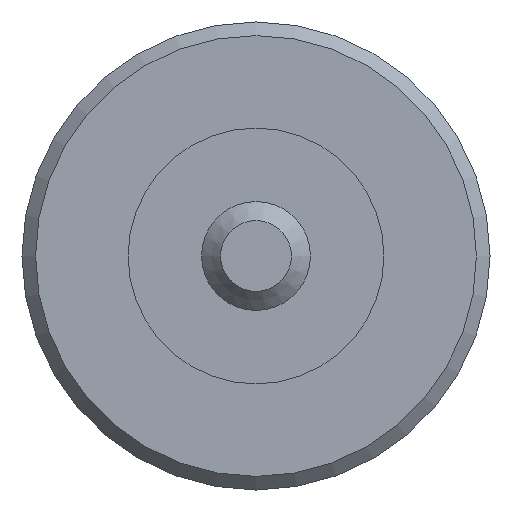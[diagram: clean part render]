
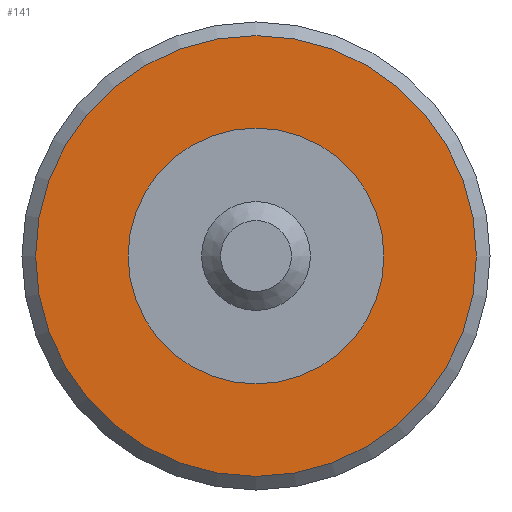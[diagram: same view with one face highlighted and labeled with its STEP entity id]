
A CAD part, left-side view. The second image highlights one B-rep face of the part: STEP entity #141.
In plain terms, the highlighted planar face has unit normal (-1, 0, 0).
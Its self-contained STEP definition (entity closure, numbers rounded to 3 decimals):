
#14=PLANE($,#161);
#26=FACE_BOUND($,#52,.T.);
#27=FACE_BOUND($,#53,.T.);
#52=EDGE_LOOP($,(#107));
#53=EDGE_LOOP($,(#108));
#69=CIRCLE($,#159,1.194);
#70=CIRCLE($,#162,2.057);
#80=VERTEX_POINT($,#235);
#81=VERTEX_POINT($,#239);
#91=EDGE_CURVE($,#80,#80,#69,.T.);
#92=EDGE_CURVE($,#81,#81,#70,.T.);
#107=ORIENTED_EDGE($,*,*,#91,.T.);
#108=ORIENTED_EDGE($,*,*,#92,.F.);
#141=ADVANCED_FACE($,(#26,#27),#14,.T.);
#159=AXIS2_PLACEMENT_3D($,#236,#192,#193);
#161=AXIS2_PLACEMENT_3D($,#238,#196,#197);
#162=AXIS2_PLACEMENT_3D($,#240,#198,#199);
#192=DIRECTION('center_axis',(1.,0.,0.));
#193=DIRECTION('ref_axis',(0.,1.,0.));
#196=DIRECTION('center_axis',(-1.,0.,0.));
#197=DIRECTION('ref_axis',(0.,0.,1.));
#198=DIRECTION('center_axis',(1.,0.,0.));
#199=DIRECTION('ref_axis',(0.,-1.,0.));
#235=CARTESIAN_POINT('',(-7.605,2.811,0.));
#236=CARTESIAN_POINT('Origin',(-7.605,1.617,0.));
#238=CARTESIAN_POINT('Origin',(-7.605,2.709,0.));
#239=CARTESIAN_POINT('',(-7.605,3.674,0.));
#240=CARTESIAN_POINT('Origin',(-7.605,1.617,0.));
